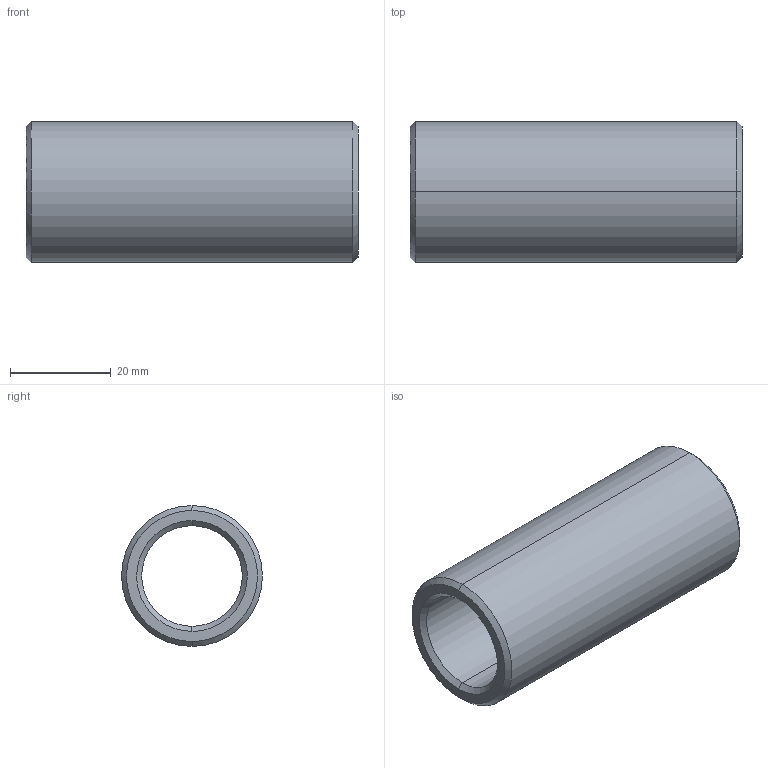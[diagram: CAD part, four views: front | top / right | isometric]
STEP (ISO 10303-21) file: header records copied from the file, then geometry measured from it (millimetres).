
FILE_DESCRIPTION(('CATIA V5 STEP Exchange'),'2;1');
FILE_NAME('C:\Users\Utente\Desktop\IO LAVORO\3D X SITO CF\X SITO\PLASTICA\352\352-20X66.stp','2021-04-12T15:20:28+00:00',('none'),('none'),'CATIA Version 5 Release 20 GA (IN-10)','CATIA V5 STEP AP203','none');
FILE_SCHEMA(('CONFIG_CONTROL_DESIGN'));
Length unit declared in the file: millimetre
Products named in the file (1): 352-20X66
Bounding box: 66 x 28 x 28 mm (x, y, z)
Volume: 19773 mm3; surface area: 10388.1 mm2
Topology: 1 solids, 1 shells, 14 faces, 44 edges, 32 vertices
Faces by surface type: cone 6, cylinder 4, plane 2, torus 2
Entity records: 634 total; most frequent: CARTESIAN_POINT 203, ORIENTED_EDGE 88, DIRECTION 64, EDGE_CURVE 44, AXIS2_PLACEMENT_3D 41, VERTEX_POINT 32, CIRCLE 26, EDGE_LOOP 16
